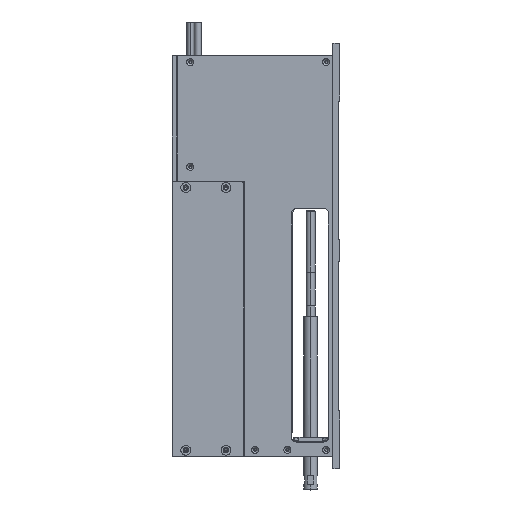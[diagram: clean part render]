
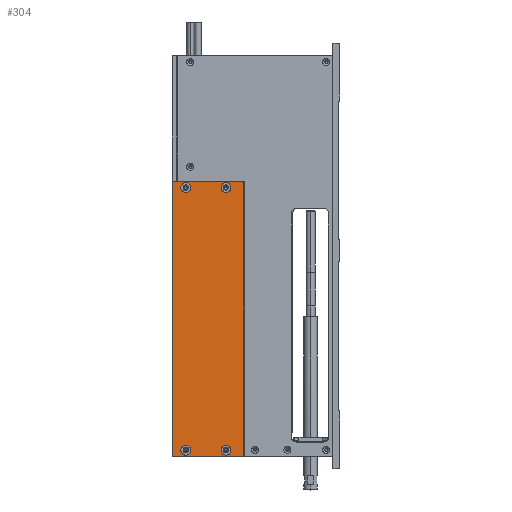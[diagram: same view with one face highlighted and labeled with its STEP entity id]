
A CAD part, top view. The second image highlights one B-rep face of the part: STEP entity #304.
In plain terms, the highlighted planar face has unit normal (0, 0, 1) as drawn and (0, 0, -1) by its records, which use the part's own axes.
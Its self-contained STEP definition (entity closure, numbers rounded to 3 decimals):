
#58 = FACE_BOUND ( 'NONE', #13874, .T. ) ;
#304 = ADVANCED_FACE ( 'NONE', ( #58, #7695, #3905, #12355, #7414 ), #14470, .T. ) ;
#434 = CARTESIAN_POINT ( 'NONE',  ( -32.1, 0., 0. ) ) ;
#569 = DIRECTION ( 'NONE',  ( 1., 0., 0. ) ) ;
#928 = CARTESIAN_POINT ( 'NONE',  ( 0., 0., 0. ) ) ;
#949 = AXIS2_PLACEMENT_3D ( 'NONE', #20179, #1121, #3466 ) ;
#1121 = DIRECTION ( 'NONE',  ( 0., 0., -1. ) ) ;
#1461 = CIRCLE ( 'NONE', #4520, 2.2 ) ;
#1678 = VERTEX_POINT ( 'NONE', #15072 ) ;
#1748 = EDGE_CURVE ( 'NONE', #13723, #12226, #16909, .T. ) ;
#1985 = DIRECTION ( 'NONE',  ( -1., 0., 0. ) ) ;
#2117 = EDGE_CURVE ( 'NONE', #13157, #19046, #1461, .T. ) ;
#2129 = VERTEX_POINT ( 'NONE', #2265 ) ;
#2245 = DIRECTION ( 'NONE',  ( -1., 0., 0. ) ) ;
#2265 = CARTESIAN_POINT ( 'NONE',  ( -28.3, 120.7, 0. ) ) ;
#2335 = DIRECTION ( 'NONE',  ( 0., 0., -1. ) ) ;
#2359 = AXIS2_PLACEMENT_3D ( 'NONE', #19571, #7996, #17910 ) ;
#2380 = CARTESIAN_POINT ( 'NONE',  ( -8.1, 120.7, 0. ) ) ;
#2549 = EDGE_LOOP ( 'NONE', ( #20105, #10828 ) ) ;
#2718 = ORIENTED_EDGE ( 'NONE', *, *, #1748, .F. ) ;
#2787 = ORIENTED_EDGE ( 'NONE', *, *, #3953, .F. ) ;
#2984 = DIRECTION ( 'NONE',  ( 0., 0., -1. ) ) ;
#3077 = DIRECTION ( 'NONE',  ( -1., 0., 0. ) ) ;
#3442 = VECTOR ( 'NONE', #17969, 1000. ) ;
#3452 = CARTESIAN_POINT ( 'NONE',  ( -10.3, 2.8, 0. ) ) ;
#3466 = DIRECTION ( 'NONE',  ( -1., 0., 0. ) ) ;
#3478 = AXIS2_PLACEMENT_3D ( 'NONE', #6480, #2984, #6557 ) ;
#3623 = VERTEX_POINT ( 'NONE', #12998 ) ;
#3905 = FACE_BOUND ( 'NONE', #2549, .T. ) ;
#3953 = EDGE_CURVE ( 'NONE', #3623, #13723, #17389, .T. ) ;
#4238 = EDGE_CURVE ( 'NONE', #5712, #1678, #9875, .T. ) ;
#4278 = EDGE_CURVE ( 'NONE', #18905, #18241, #9362, .T. ) ;
#4520 = AXIS2_PLACEMENT_3D ( 'NONE', #2380, #2335, #2245 ) ;
#4686 = CIRCLE ( 'NONE', #10008, 2.2 ) ;
#4769 = CARTESIAN_POINT ( 'NONE',  ( -26.1, 2.8, 0. ) ) ;
#4903 = DIRECTION ( 'NONE',  ( -1., 0., 0. ) ) ;
#4965 = ORIENTED_EDGE ( 'NONE', *, *, #16354, .T. ) ;
#5113 = CARTESIAN_POINT ( 'NONE',  ( -32.1, 0., 0. ) ) ;
#5712 = VERTEX_POINT ( 'NONE', #6190 ) ;
#6190 = CARTESIAN_POINT ( 'NONE',  ( -28.3, 2.8, 0. ) ) ;
#6208 = CARTESIAN_POINT ( 'NONE',  ( -5.9, 120.7, 0. ) ) ;
#6242 = ORIENTED_EDGE ( 'NONE', *, *, #2117, .F. ) ;
#6480 = CARTESIAN_POINT ( 'NONE',  ( -26.1, 120.7, 0. ) ) ;
#6557 = DIRECTION ( 'NONE',  ( -1., 0., 0. ) ) ;
#6587 = CARTESIAN_POINT ( 'NONE',  ( -26.1, 120.7, 0. ) ) ;
#6635 = ORIENTED_EDGE ( 'NONE', *, *, #11116, .F. ) ;
#6890 = AXIS2_PLACEMENT_3D ( 'NONE', #4769, #14771, #3077 ) ;
#7329 = EDGE_CURVE ( 'NONE', #18241, #18905, #17904, .T. ) ;
#7414 = FACE_OUTER_BOUND ( 'NONE', #21406, .T. ) ;
#7695 = FACE_BOUND ( 'NONE', #20088, .T. ) ;
#7877 = EDGE_CURVE ( 'NONE', #11877, #2129, #9918, .T. ) ;
#7986 = DIRECTION ( 'NONE',  ( 0., 0., -1. ) ) ;
#7996 = DIRECTION ( 'NONE',  ( 0., 0., -1. ) ) ;
#8160 = ORIENTED_EDGE ( 'NONE', *, *, #7877, .F. ) ;
#8197 = AXIS2_PLACEMENT_3D ( 'NONE', #16781, #11727, #13429 ) ;
#9169 = CIRCLE ( 'NONE', #20498, 2.2 ) ;
#9336 = EDGE_CURVE ( 'NONE', #19046, #13157, #12640, .T. ) ;
#9362 = CIRCLE ( 'NONE', #2359, 2.2 ) ;
#9451 = EDGE_CURVE ( 'NONE', #1678, #5712, #9169, .T. ) ;
#9875 = CIRCLE ( 'NONE', #6890, 2.2 ) ;
#9890 = CARTESIAN_POINT ( 'NONE',  ( -23.9, 120.7, 0. ) ) ;
#9918 = CIRCLE ( 'NONE', #3478, 2.2 ) ;
#10008 = AXIS2_PLACEMENT_3D ( 'NONE', #6587, #16546, #4903 ) ;
#10407 = DIRECTION ( 'NONE',  ( 0., -1., 0. ) ) ;
#10593 = CARTESIAN_POINT ( 'NONE',  ( -10.3, 120.7, 0. ) ) ;
#10731 = ORIENTED_EDGE ( 'NONE', *, *, #9336, .F. ) ;
#10828 = ORIENTED_EDGE ( 'NONE', *, *, #9451, .F. ) ;
#11116 = EDGE_CURVE ( 'NONE', #2129, #11877, #4686, .T. ) ;
#11380 = CARTESIAN_POINT ( 'NONE',  ( -5.9, 2.8, 0. ) ) ;
#11727 = DIRECTION ( 'NONE',  ( 0., 0., -1. ) ) ;
#11877 = VERTEX_POINT ( 'NONE', #9890 ) ;
#12226 = VERTEX_POINT ( 'NONE', #14981 ) ;
#12355 = FACE_BOUND ( 'NONE', #19829, .T. ) ;
#12537 = VECTOR ( 'NONE', #569, 1000. ) ;
#12640 = CIRCLE ( 'NONE', #8197, 2.2 ) ;
#12745 = CARTESIAN_POINT ( 'NONE',  ( 0., 1., 0. ) ) ;
#12998 = CARTESIAN_POINT ( 'NONE',  ( -32.1, 123.5, 0. ) ) ;
#13096 = LINE ( 'NONE', #14431, #19246 ) ;
#13148 = EDGE_CURVE ( 'NONE', #17163, #16400, #16199, .T. ) ;
#13157 = VERTEX_POINT ( 'NONE', #10593 ) ;
#13429 = DIRECTION ( 'NONE',  ( -1., 0., 0. ) ) ;
#13721 = LINE ( 'NONE', #14734, #18582 ) ;
#13723 = VERTEX_POINT ( 'NONE', #5113 ) ;
#13874 = EDGE_LOOP ( 'NONE', ( #6635, #8160 ) ) ;
#14431 = CARTESIAN_POINT ( 'NONE',  ( -0.5, 0.5, 0. ) ) ;
#14442 = EDGE_CURVE ( 'NONE', #16400, #3623, #13721, .T. ) ;
#14470 = PLANE ( 'NONE',  #949 ) ;
#14734 = CARTESIAN_POINT ( 'NONE',  ( -32.1, 123.5, 0. ) ) ;
#14771 = DIRECTION ( 'NONE',  ( 0., 0., -1. ) ) ;
#14981 = CARTESIAN_POINT ( 'NONE',  ( -1., 0., 0. ) ) ;
#15072 = CARTESIAN_POINT ( 'NONE',  ( -23.9, 2.8, 0. ) ) ;
#16166 = ORIENTED_EDGE ( 'NONE', *, *, #14442, .F. ) ;
#16199 = LINE ( 'NONE', #17478, #3442 ) ;
#16354 = EDGE_CURVE ( 'NONE', #17163, #12226, #13096, .T. ) ;
#16400 = VERTEX_POINT ( 'NONE', #18210 ) ;
#16546 = DIRECTION ( 'NONE',  ( 0., 0., -1. ) ) ;
#16781 = CARTESIAN_POINT ( 'NONE',  ( -8.1, 120.7, 0. ) ) ;
#16909 = LINE ( 'NONE', #928, #12537 ) ;
#17163 = VERTEX_POINT ( 'NONE', #12745 ) ;
#17389 = LINE ( 'NONE', #434, #20709 ) ;
#17478 = CARTESIAN_POINT ( 'NONE',  ( 0., 123.5, 0. ) ) ;
#17507 = CARTESIAN_POINT ( 'NONE',  ( -8.1, 2.8, 0. ) ) ;
#17554 = DIRECTION ( 'NONE',  ( 0., 0., -1. ) ) ;
#17573 = DIRECTION ( 'NONE',  ( -1., 0., 0. ) ) ;
#17796 = ORIENTED_EDGE ( 'NONE', *, *, #7329, .F. ) ;
#17904 = CIRCLE ( 'NONE', #18219, 2.2 ) ;
#17910 = DIRECTION ( 'NONE',  ( -1., 0., 0. ) ) ;
#17969 = DIRECTION ( 'NONE',  ( 0., 1., 0. ) ) ;
#18210 = CARTESIAN_POINT ( 'NONE',  ( 0., 123.5, 0. ) ) ;
#18219 = AXIS2_PLACEMENT_3D ( 'NONE', #17507, #17554, #17573 ) ;
#18241 = VERTEX_POINT ( 'NONE', #11380 ) ;
#18285 = DIRECTION ( 'NONE',  ( -1., 0., 0. ) ) ;
#18286 = ORIENTED_EDGE ( 'NONE', *, *, #13148, .F. ) ;
#18582 = VECTOR ( 'NONE', #1985, 1000. ) ;
#18858 = ORIENTED_EDGE ( 'NONE', *, *, #4278, .F. ) ;
#18905 = VERTEX_POINT ( 'NONE', #3452 ) ;
#19046 = VERTEX_POINT ( 'NONE', #6208 ) ;
#19246 = VECTOR ( 'NONE', #20529, 1000. ) ;
#19571 = CARTESIAN_POINT ( 'NONE',  ( -8.1, 2.8, 0. ) ) ;
#19829 = EDGE_LOOP ( 'NONE', ( #18858, #17796 ) ) ;
#19943 = CARTESIAN_POINT ( 'NONE',  ( -26.1, 2.8, 0. ) ) ;
#20088 = EDGE_LOOP ( 'NONE', ( #6242, #10731 ) ) ;
#20105 = ORIENTED_EDGE ( 'NONE', *, *, #4238, .F. ) ;
#20179 = CARTESIAN_POINT ( 'NONE',  ( 0., 0., 0. ) ) ;
#20498 = AXIS2_PLACEMENT_3D ( 'NONE', #19943, #7986, #18285 ) ;
#20529 = DIRECTION ( 'NONE',  ( -0.707, -0.707, 0. ) ) ;
#20709 = VECTOR ( 'NONE', #10407, 1000. ) ;
#21406 = EDGE_LOOP ( 'NONE', ( #18286, #4965, #2718, #2787, #16166 ) ) ;
